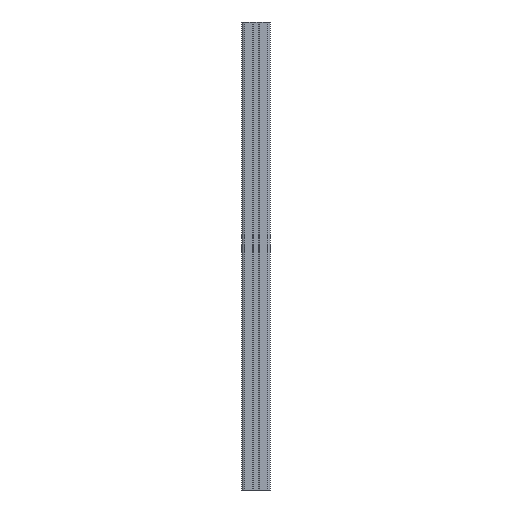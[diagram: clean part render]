
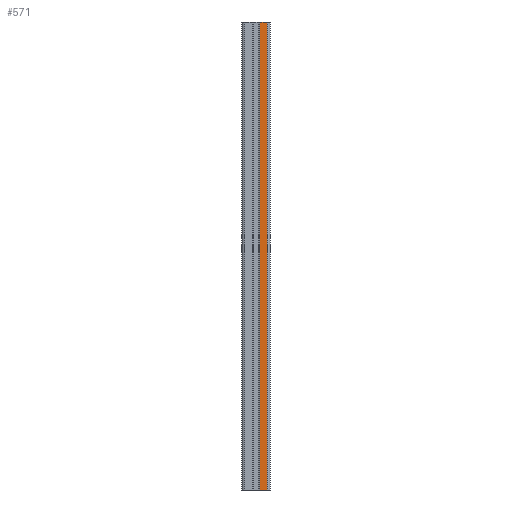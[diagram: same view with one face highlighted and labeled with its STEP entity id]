
A CAD part, front view. The second image highlights one B-rep face of the part: STEP entity #571.
In plain terms, the highlighted planar face has unit normal (0, -1, 0).
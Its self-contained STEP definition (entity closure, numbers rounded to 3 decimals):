
#141 = DIRECTION ( 'NONE',  ( 1., 0., 0. ) ) ;
#208 = LINE ( 'NONE', #728, #1800 ) ;
#413 = ORIENTED_EDGE ( 'NONE', *, *, #554, .F. ) ;
#506 = CARTESIAN_POINT ( 'NONE',  ( -15., -15., -292.426 ) ) ;
#554 = EDGE_CURVE ( 'NONE', #1229, #2406, #2789, .T. ) ;
#555 = VERTEX_POINT ( 'NONE', #1034 ) ;
#571 = ADVANCED_FACE ( 'NONE', ( #3106 ), #3475, .T. ) ;
#623 = CARTESIAN_POINT ( 'NONE',  ( 4.1, -15., -250. ) ) ;
#728 = CARTESIAN_POINT ( 'NONE',  ( -15., -15., -250. ) ) ;
#755 = VECTOR ( 'NONE', #3500, 1000. ) ;
#875 = DIRECTION ( 'NONE',  ( 0., 0., 1. ) ) ;
#880 = VECTOR ( 'NONE', #875, 1000. ) ;
#881 = EDGE_CURVE ( 'NONE', #555, #2406, #3351, .T. ) ;
#990 = LINE ( 'NONE', #1772, #755 ) ;
#1034 = CARTESIAN_POINT ( 'NONE',  ( 12., -15., -250. ) ) ;
#1229 = VERTEX_POINT ( 'NONE', #1579 ) ;
#1288 = ORIENTED_EDGE ( 'NONE', *, *, #1506, .F. ) ;
#1359 = EDGE_CURVE ( 'NONE', #3014, #1229, #990, .T. ) ;
#1506 = EDGE_CURVE ( 'NONE', #555, #3014, #208, .T. ) ;
#1579 = CARTESIAN_POINT ( 'NONE',  ( 4.1, -15., 250. ) ) ;
#1772 = CARTESIAN_POINT ( 'NONE',  ( 4.1, -15., -250. ) ) ;
#1773 = VECTOR ( 'NONE', #141, 1000. ) ;
#1800 = VECTOR ( 'NONE', #3131, 1000. ) ;
#2270 = CARTESIAN_POINT ( 'NONE',  ( 12., -15., 250. ) ) ;
#2283 = DIRECTION ( 'NONE',  ( 0., -1., 0. ) ) ;
#2391 = ORIENTED_EDGE ( 'NONE', *, *, #881, .T. ) ;
#2406 = VERTEX_POINT ( 'NONE', #2270 ) ;
#2529 = CARTESIAN_POINT ( 'NONE',  ( -15., -15., 250. ) ) ;
#2789 = LINE ( 'NONE', #2529, #1773 ) ;
#3014 = VERTEX_POINT ( 'NONE', #623 ) ;
#3106 = FACE_OUTER_BOUND ( 'NONE', #3609, .T. ) ;
#3131 = DIRECTION ( 'NONE',  ( -1., 0., 0. ) ) ;
#3351 = LINE ( 'NONE', #3615, #880 ) ;
#3387 = AXIS2_PLACEMENT_3D ( 'NONE', #506, #2283, #3771 ) ;
#3475 = PLANE ( 'NONE',  #3387 ) ;
#3500 = DIRECTION ( 'NONE',  ( 0., 0., 1. ) ) ;
#3609 = EDGE_LOOP ( 'NONE', ( #1288, #2391, #413, #3646 ) ) ;
#3615 = CARTESIAN_POINT ( 'NONE',  ( 12., -15., -250. ) ) ;
#3646 = ORIENTED_EDGE ( 'NONE', *, *, #1359, .F. ) ;
#3771 = DIRECTION ( 'NONE',  ( 1., 0., 0. ) ) ;
